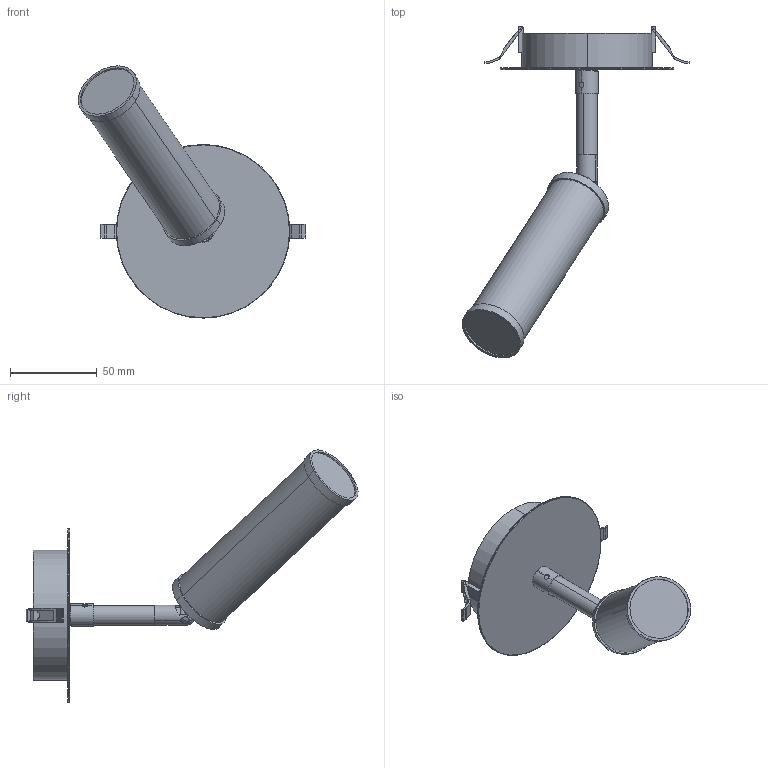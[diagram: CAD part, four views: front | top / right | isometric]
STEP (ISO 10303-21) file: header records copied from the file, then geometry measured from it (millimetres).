
FILE_DESCRIPTION (( 'STEP AP214' ), '1' );
FILE_NAME ('DODO_empotrable.STEP', '2026-03-30T08:43:18', ( '' ), ( '' ), 'SwSTEP 2.0', 'SolidWorks 2023', '' );
FILE_SCHEMA (( 'AUTOMOTIVE_DESIGN' ));
Length unit declared in the file: millimetre
Products named in the file (3): DOOD_estructura; DODO_empotrable; EP1279
Assembly tree (2 placements, depth 2):
  DODO_empotrable
    EP1279
    DOOD_estructura
Bounding box: 131.04 x 191.12 x 145.24 mm (x, y, z)
Volume: 141245.3 mm3; surface area: 51158.2 mm2
Topology: 12 solids, 12 shells, 158 faces, 394 edges, 258 vertices
Faces by surface type: cylinder 74, plane 70, torus 8, bspline 2, sphere 2, cone 2
Entity records: 5526 total; most frequent: CARTESIAN_POINT 1483, DIRECTION 830, ORIENTED_EDGE 780, EDGE_CURVE 390, AXIS2_PLACEMENT_3D 315, VERTEX_POINT 256, LINE 200, VECTOR 200
